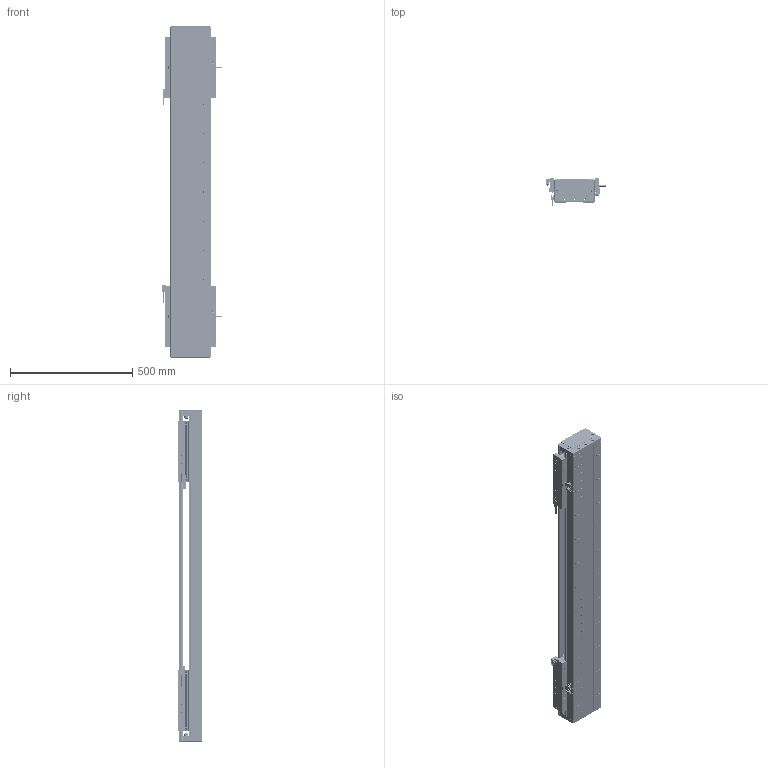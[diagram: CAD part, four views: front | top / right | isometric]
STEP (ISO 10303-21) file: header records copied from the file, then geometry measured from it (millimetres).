
FILE_DESCRIPTION (( 'STEP AP203' ), '1' );
FILE_NAME ('DA-C165-2-C3-T740-C010-0.2 直线电机.STEP', '2023-06-13T09:31:45', ( '微软用户' ), ( '微软中国' ), 'SwSTEP 2.0', 'SolidWorks 2019', '' );
FILE_SCHEMA (( 'CONFIG_CONTROL_DESIGN' ));
Length unit declared in the file: millimetre
Products named in the file (19): 复件 XD-U-02L 磁栅尺^DA-C165-C3-T-C010-0.2-N 直线电机_T; 复件 DA95-HXJ-00 缓冲橡胶^DA-C165-C3-T-C010-0.2-N 直线电机; 葩璃 CKM01-W075-TRL^DA-C165-C3-T-C010-0.2-N 眻盄萇儂; 复件 DA165-T-002-00 盖板^DA-C165-C3-T-C010-0.2-N 直线电机_0840-002-00; 珨极趙賑雄怢啣C3-wf; 复件 六角薄螺母 M3^DA-C165-C3-T-C010-0.2-N 直线电机_GB_FASTENER_NUT_STNAB M3-C; 复件 66338-1000-006-00 光电感应块^DA-C165-C3-T-C010-0.2-N 直线电机; 葩璃 PM-T45^DA-C165-C3-T-C010-0.2-N 眻盄萇儂; 复件 DA126-GYP-ZJ-00 中间光电感应片^DA-C165-C3-T-C010-0.2-N 直线电机; 复件 DMA-010-0.2 读数头^DA-C165-C3-T-C010-0.2-N 直线电机; DA-C165-2-C3-T740-C010-0.2 眻盄萇儂; 复件 DKW-HXJ-JY-00 缓冲橡胶^DA-C165-C3-T-C010-0.2-N 直线电机; 葩璃 PM-Y45^DA-C165-C3-T-C010-0.2-N 眻盄萇儂; 复件 CU165 底座^IU-CU165-L 底座导轨_L1320; 复件 DA165-GYP-00 光电感应片^DA-C165-C3-T-C010-0.2-N 直线电机; 葩璃 CKM03-W075-C1C2-TP-3.0^DA-C165-C3-T-C010-0.2-N 眻盄萇儂; 葩璃 DA95-GT-T-00^IU-CU165-L 菁釱絳寢_T; 复件 DA165-DG-H-N-00 端盖^DA-C165-C3-T-C010-0.2-N 直线电机; IU-CU165-L 菁釱絳寢
Assembly tree (40 placements, depth 3):
  DA-C165-2-C3-T740-C010-0.2 眻盄萇儂
    IU-CU165-L 菁釱絳寢
      复件 CU165 底座^IU-CU165-L 底座导轨_L1320
      葩璃 DA95-GT-T-00^IU-CU165-L 菁釱絳寢_T  x4
    复件 DA165-DG-H-N-00 端盖^DA-C165-C3-T-C010-0.2-N 直线电机  x2
    复件 DA95-HXJ-00 缓冲橡胶^DA-C165-C3-T-C010-0.2-N 直线电机  x4
    复件 DA165-T-002-00 盖板^DA-C165-C3-T-C010-0.2-N 直线电机_0840-002-00
    复件 XD-U-02L 磁栅尺^DA-C165-C3-T-C010-0.2-N 直线电机_T
    葩璃 PM-T45^DA-C165-C3-T-C010-0.2-N 眻盄萇儂  x4
    葩璃 CKM01-W075-TRL^DA-C165-C3-T-C010-0.2-N 眻盄萇儂
    复件 DMA-010-0.2 读数头^DA-C165-C3-T-C010-0.2-N 直线电机  x2
    复件 DA165-GYP-00 光电感应片^DA-C165-C3-T-C010-0.2-N 直线电机  x2
    复件 66338-1000-006-00 光电感应块^DA-C165-C3-T-C010-0.2-N 直线电机
    葩璃 PM-Y45^DA-C165-C3-T-C010-0.2-N 眻盄萇儂
    复件 DA126-GYP-ZJ-00 中间光电感应片^DA-C165-C3-T-C010-0.2-N 直线电机
    葩璃 CKM03-W075-C1C2-TP-3.0^DA-C165-C3-T-C010-0.2-N 眻盄萇儂  x2
    复件 DKW-HXJ-JY-00 缓冲橡胶^DA-C165-C3-T-C010-0.2-N 直线电机  x2
    复件 六角薄螺母 M3^DA-C165-C3-T-C010-0.2-N 直线电机_GB_FASTENER_NUT_STNAB M3-C  x8
    珨极趙賑雄怢啣C3-wf  x2
Bounding box: 247.2 x 111.45 x 1360 mm (x, y, z)
Volume: 12082037.8 mm3; surface area: 3092445 mm2
Topology: 117 solids, 217 shells, 5894 faces, 15455 edges, 9500 vertices
Faces by surface type: cylinder 2856, plane 1986, cone 956, torus 88, sphere 8
Entity records: 116796 total; most frequent: CARTESIAN_POINT 27960, DIRECTION 18267, ORIENTED_EDGE 17796, EDGE_CURVE 8898, AXIS2_PLACEMENT_3D 6889, VERTEX_POINT 5754, VECTOR 4489, LINE 4489
